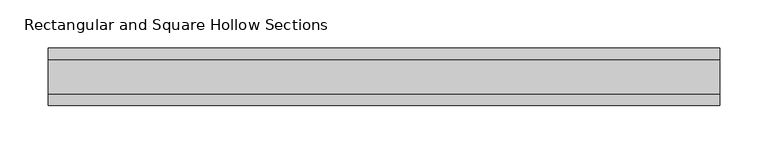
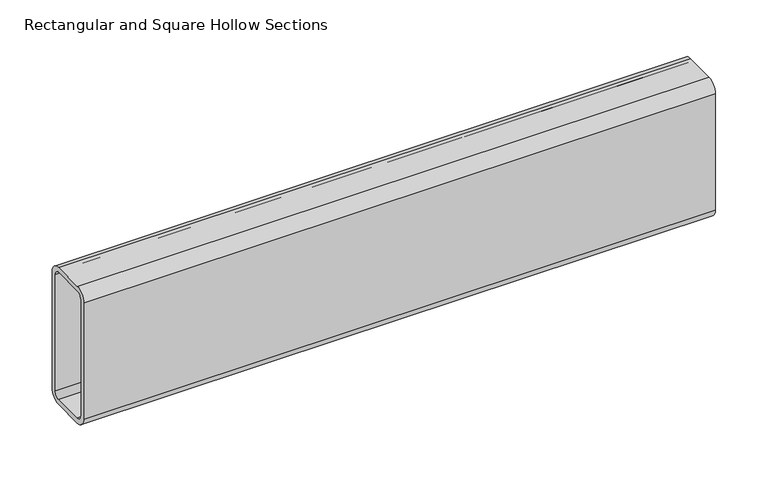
"""IFC4 building model written with IfcOpenShell, lengths in millimetres: beam geometry, Rectangular and Square Hollow Sections : TREC160x60x6."""

from ifc_helpers import new_model, si_unit, point, frame, frame_2d, origin, place, context, project, spatial, polyline, circle_curve, trimmed, segment, composite_curve, outline, extrude, source, transform, mapped, element, save


def rectangular_and_square_hollow_sections_88c51820(model_context):
    return source(origin(), model_context, "Body", "SweptSolid", [
        extrude(outline(composite_curve([segment(polyline([(30.0, 68.0), (30.0, -68.0)]), True, "CONTINUOUS"), segment(trimmed(circle_curve(frame_2d((18.0, -68.0)), 12.0), [point((30.0, -68.0))], [point((18.0, -80.0))], False, "CARTESIAN"), True, "CONTINUOUS"), segment(polyline([(18.0, -80.0), (-18.0, -80.0)]), True, "CONTINUOUS"), segment(trimmed(circle_curve(frame_2d((-18.0, -68.0)), 12.0), [point((-18.0, -80.0))], [point((-30.0, -68.0))], False, "CARTESIAN"), True, "CONTINUOUS"), segment(polyline([(-30.0, -68.0), (-30.0, 68.0)]), True, "CONTINUOUS"), segment(trimmed(circle_curve(frame_2d((-18.0, 68.0)), 12.0), [point((-30.0, 68.0))], [point((-18.0, 80.0))], False, "CARTESIAN"), True, "CONTINUOUS"), segment(polyline([(-18.0, 80.0), (18.0, 80.0)]), True, "CONTINUOUS"), segment(trimmed(circle_curve(frame_2d((18.0, 68.0)), 12.0), [point((18.0, 80.0))], [point((30.0, 68.0))], False, "CARTESIAN"), True, "CONTINUOUS")], self_intersect=False), holes=[composite_curve([segment(trimmed(circle_curve(frame_2d((-18.0, 68.0)), 6.0), [point((-18.0, 74.0))], [point((-24.0, 68.0))], True, "CARTESIAN"), True, "CONTINUOUS"), segment(polyline([(-24.0, 68.0), (-24.0, -68.0)]), True, "CONTINUOUS"), segment(trimmed(circle_curve(frame_2d((-18.0, -68.0)), 6.0), [point((-24.0, -68.0))], [point((-18.0, -74.0))], True, "CARTESIAN"), True, "CONTINUOUS"), segment(polyline([(-18.0, -74.0), (18.0, -74.0)]), True, "CONTINUOUS"), segment(trimmed(circle_curve(frame_2d((18.0, -68.0)), 6.0), [point((18.0, -74.0))], [point((24.0, -68.0))], True, "CARTESIAN"), True, "CONTINUOUS"), segment(polyline([(24.0, -68.0), (24.0, 68.0)]), True, "CONTINUOUS"), segment(trimmed(circle_curve(frame_2d((18.0, 68.0)), 6.0), [point((24.0, 68.0))], [point((18.0, 74.0))], True, "CARTESIAN"), True, "CONTINUOUS"), segment(polyline([(18.0, 74.0), (-18.0, 74.0)]), True, "CONTINUOUS")], self_intersect=False)]), frame((-349.0, 0.0, 0.0), z_axis=(1.0, 0.0, 0.0), x_axis=(0.0, 1.0, 0.0)), (0.0, 0.0, 1.0), 698.0),
    ])


if __name__ == "__main__":
    model = new_model("IFC4")
    model_context = context("Model", 3, world=origin())
    ifc_project = project(units=[si_unit("LENGTHUNIT", "METRE", prefix="MILLI")], contexts=[model_context])
    site = spatial("IfcSite", under=ifc_project)
    building = spatial("IfcBuilding", under=site)
    placement = place(None, origin())
    rectangular_and_square_hollow_sections_shape = rectangular_and_square_hollow_sections_88c51820(model_context)
    element("IfcBeam", 1, ObjectType="Rectangular and Square Hollow Sections : TREC160x60x6", at=placement, inside=building, context=model_context, shape_type="MappedRepresentation", body=[
        mapped(rectangular_and_square_hollow_sections_shape, transform((0.0, 0.0, 0.0), x_axis=(1.0, 0.0, 0.0), y_axis=(0.0, 1.0, 0.0), z_axis=(0.0, 0.0, 1.0))),
    ])
    save(model, "model.ifc")
